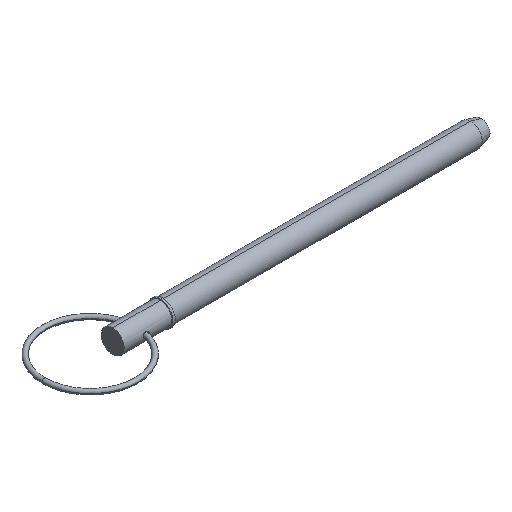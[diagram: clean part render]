
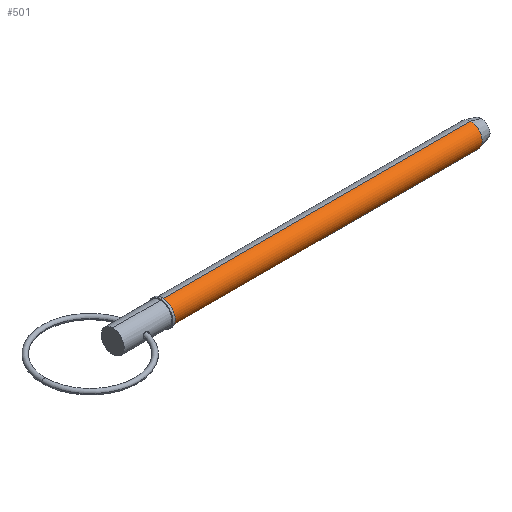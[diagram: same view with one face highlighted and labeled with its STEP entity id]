
A CAD part, isometric view. The second image highlights one B-rep face of the part: STEP entity #501.
In plain terms, the highlighted cylindrical face has radius 5.555 mm (diameter 11.11 mm), a partial arc.
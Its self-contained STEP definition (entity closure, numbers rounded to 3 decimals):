
#16 = CARTESIAN_POINT ( 'NONE',  ( 24.13, 0., -5.555 ) ) ;
#121 = EDGE_LOOP ( 'NONE', ( #206, #127, #540, #237 ) ) ;
#127 = ORIENTED_EDGE ( 'NONE', *, *, #860, .T. ) ;
#175 = DIRECTION ( 'NONE',  ( 0., 0., -1. ) ) ;
#190 = DIRECTION ( 'NONE',  ( 0., 0., -1. ) ) ;
#206 = ORIENTED_EDGE ( 'NONE', *, *, #321, .F. ) ;
#237 = ORIENTED_EDGE ( 'NONE', *, *, #869, .F. ) ;
#253 = LINE ( 'NONE', #569, #691 ) ;
#321 = EDGE_CURVE ( 'NONE', #854, #376, #748, .T. ) ;
#355 = AXIS2_PLACEMENT_3D ( 'NONE', #381, #870, #621 ) ;
#376 = VERTEX_POINT ( 'NONE', #634 ) ;
#381 = CARTESIAN_POINT ( 'NONE',  ( 0., 0., 0. ) ) ;
#420 = CARTESIAN_POINT ( 'NONE',  ( 24.13, 0., 5.555 ) ) ;
#473 = FACE_OUTER_BOUND ( 'NONE', #121, .T. ) ;
#489 = CIRCLE ( 'NONE', #942, 5.555 ) ;
#497 = DIRECTION ( 'NONE',  ( 1., 0., 0. ) ) ;
#500 = CARTESIAN_POINT ( 'NONE',  ( 172.917, 0., -5.555 ) ) ;
#501 = ADVANCED_FACE ( 'NONE', ( #473 ), #629, .T. ) ;
#509 = CIRCLE ( 'NONE', #773, 5.555 ) ;
#540 = ORIENTED_EDGE ( 'NONE', *, *, #828, .T. ) ;
#569 = CARTESIAN_POINT ( 'NONE',  ( 0., 0., -5.555 ) ) ;
#574 = DIRECTION ( 'NONE',  ( 1., 0., 0. ) ) ;
#621 = DIRECTION ( 'NONE',  ( 0., 0., -1. ) ) ;
#629 = CYLINDRICAL_SURFACE ( 'NONE', #355, 5.555 ) ;
#634 = CARTESIAN_POINT ( 'NONE',  ( 172.917, 0., 5.555 ) ) ;
#668 = DIRECTION ( 'NONE',  ( 1., 0., 0. ) ) ;
#691 = VECTOR ( 'NONE', #574, 1000. ) ;
#717 = DIRECTION ( 'NONE',  ( 1., 0., 0. ) ) ;
#729 = CARTESIAN_POINT ( 'NONE',  ( 24.13, 0., 0. ) ) ;
#748 = LINE ( 'NONE', #759, #771 ) ;
#759 = CARTESIAN_POINT ( 'NONE',  ( 0., 0., 5.555 ) ) ;
#766 = VERTEX_POINT ( 'NONE', #16 ) ;
#771 = VECTOR ( 'NONE', #668, 1000. ) ;
#773 = AXIS2_PLACEMENT_3D ( 'NONE', #955, #717, #175 ) ;
#828 = EDGE_CURVE ( 'NONE', #766, #986, #253, .T. ) ;
#854 = VERTEX_POINT ( 'NONE', #420 ) ;
#860 = EDGE_CURVE ( 'NONE', #854, #766, #489, .T. ) ;
#869 = EDGE_CURVE ( 'NONE', #376, #986, #509, .T. ) ;
#870 = DIRECTION ( 'NONE',  ( 1., 0., 0. ) ) ;
#942 = AXIS2_PLACEMENT_3D ( 'NONE', #729, #497, #190 ) ;
#955 = CARTESIAN_POINT ( 'NONE',  ( 172.917, 0., 0. ) ) ;
#986 = VERTEX_POINT ( 'NONE', #500 ) ;
